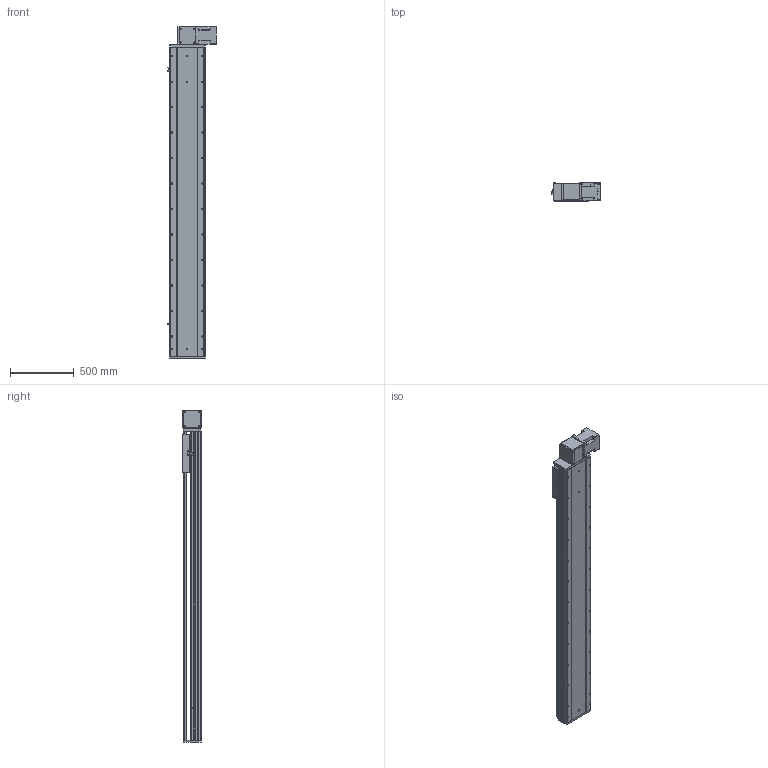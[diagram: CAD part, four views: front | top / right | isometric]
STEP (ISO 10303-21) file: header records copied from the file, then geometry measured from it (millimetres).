
FILE_DESCRIPTION (( 'STEP AP214' ), '1' );
FILE_NAME ('RTB28S-XX-2000-BL-M100-XX-C4.STEP', '2025-12-22T02:27:46', ( '' ), ( '' ), 'SwSTEP 2.0', 'SolidWorks 2018', '' );
FILE_SCHEMA (( 'AUTOMOTIVE_DESIGN' ));
Length unit declared in the file: millimetre
Products named in the file (4): RTB28S-XX-2000-BL-M100-XX-C4; RTB28S-GY-011^RTB28S-XX-XX-BL-M100-XX-C4; RTB28S-GY-008^RTB28S-XX-XX-BL-M100-XX-C4; RTB28S-GY-004^RTB28S-XX-XX-BL-M100-XX-C4
Assembly tree (3 placements, depth 2):
  RTB28S-XX-2000-BL-M100-XX-C4
    RTB28S-GY-011^RTB28S-XX-XX-BL-M100-XX-C4
    RTB28S-GY-004^RTB28S-XX-XX-BL-M100-XX-C4
    RTB28S-GY-008^RTB28S-XX-XX-BL-M100-XX-C4
Bounding box: 380.7 x 145 x 2607 mm (x, y, z)
Volume: 45359733.7 mm3; surface area: 4283078.7 mm2
Topology: 3 solids, 4 shells, 838 faces, 2238 edges, 1428 vertices
Faces by surface type: cylinder 399, plane 355, cone 80, torus 4
Entity records: 31943 total; most frequent: CARTESIAN_POINT 5752, DIRECTION 4752, ORIENTED_EDGE 4412, EDGE_CURVE 2206, AXIS2_PLACEMENT_3D 1736, VERTEX_POINT 1428, VECTOR 1280, LINE 1280
